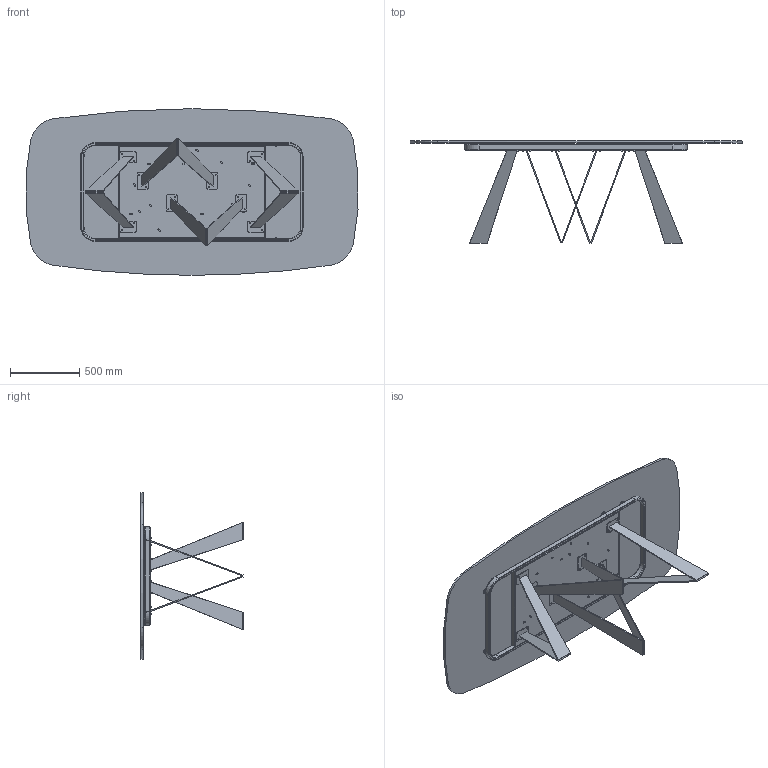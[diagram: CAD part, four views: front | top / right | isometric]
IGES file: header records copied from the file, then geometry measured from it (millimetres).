
Start section: SolidWorks IGES file using analytic representation for surfaces
Global section: file name: Y:\eforma\TECNICO\SOLIDWORKS\E-FORMA\1-TAVOLI\NOA TAVOLO\02 parts\NO43G_Noa_240x120x75h_Glass Shaped.IGS; native system: SolidWorks 2022; preprocessor: SolidWorks 2022; author: eforma.tech; date: 240807.161623; units: millimetre
Bounding box: 2391.62 x 734.8 x 1200 mm (x, y, z)
Volume: 48980749.7 mm3; surface area: 9448754.1 mm2
Topology: 70 solids, 70 shells, 1477 faces, 3375 edges, 2022 vertices
Faces by surface type: revolution 893, plane 584
